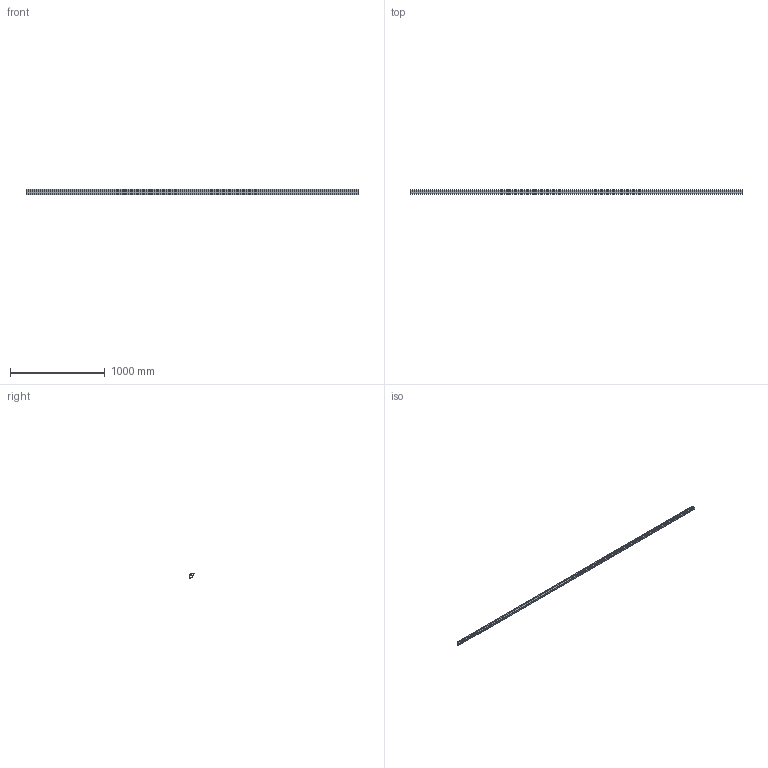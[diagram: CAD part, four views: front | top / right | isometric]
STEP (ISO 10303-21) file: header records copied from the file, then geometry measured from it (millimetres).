
FILE_DESCRIPTION(('STEP AP242'),'1');
FILE_NAME('OPO_51.047.22_volu_schn_3d.stp','2026-03-17T13:40:03',(' '),(' '),'Spatial InterOp 3D',' ',' ');
FILE_SCHEMA(('AP242_MANAGED_MODEL_BASED_3D_ENGINEERING_MIM_LF {1 0 10303 442 1 1 4}'));
Length unit declared in the file: millimetre
Products named in the file (1): 1
Bounding box: 3500 x 42.5 x 53 mm (x, y, z)
Volume: 983355.1 mm3; surface area: 1198143.3 mm2
Topology: 1 solids, 1 shells, 74 faces, 557 edges, 844 vertices
Faces by surface type: plane 54, cylinder 20
Entity records: 7291 total; most frequent: DIRECTION 831, CARTESIAN_POINT 767, LINE 435, VECTOR 435, STYLED_ITEM 429, PRESENTATION_STYLE_ASSIGNMENT 429, COLOUR_RGB 429, ORIENTED_EDGE 404
